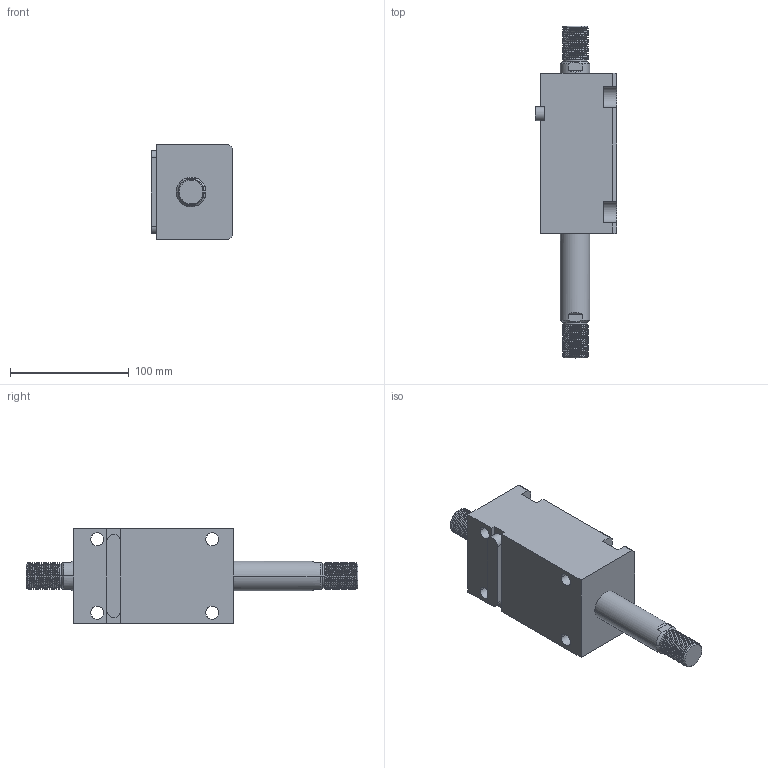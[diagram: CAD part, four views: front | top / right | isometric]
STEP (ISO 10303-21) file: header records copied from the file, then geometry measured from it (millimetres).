
FILE_DESCRIPTION (( 'STEP AP214' ), '1' );
FILE_NAME ('chtb-lw40x65w_asm.STEP', '2018-06-04T08:23:29', ( 'Windows' ), ( 'Microsoft' ), 'SwSTEP 2.0', 'SolidWorks 2015', '' );
FILE_SCHEMA (( 'AUTOMOTIVE_DESIGN' ));
Length unit declared in the file: millimetre
Products named in the file (5): CHTB-SW40X65NHSG; CHTB-SD40QG; CHTB-LW40X65NBT; CHTB-LA40PJ; chtb-lw40x65w_asm
Assembly tree (4 placements, depth 2):
  chtb-lw40x65w_asm
    CHTB-LA40PJ
    CHTB-LW40X65NBT
    CHTB-SD40QG
    CHTB-SW40X65NHSG
Bounding box: 68.5 x 280 x 80 mm (x, y, z)
Volume: 667794.3 mm3; surface area: 114041 mm2
Topology: 4 solids, 4 shells, 258 faces, 711 edges, 473 vertices
Faces by surface type: cylinder 152, plane 59, bspline 18, cone 17, torus 12
Entity records: 17539 total; most frequent: CARTESIAN_POINT 11292, ORIENTED_EDGE 1410, DIRECTION 1124, EDGE_CURVE 705, VERTEX_POINT 473, AXIS2_PLACEMENT_3D 433, EDGE_LOOP 292, VECTOR 258
